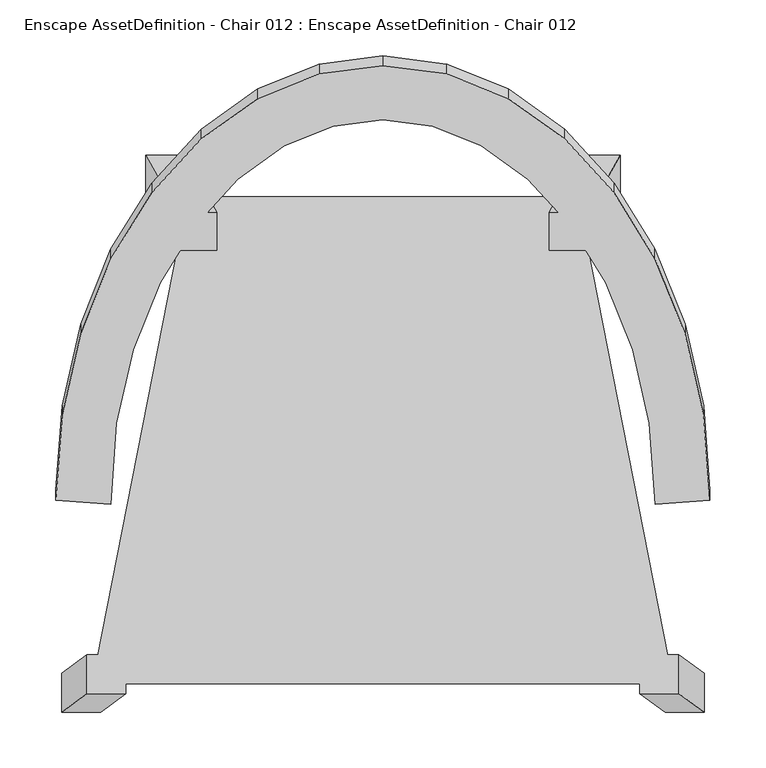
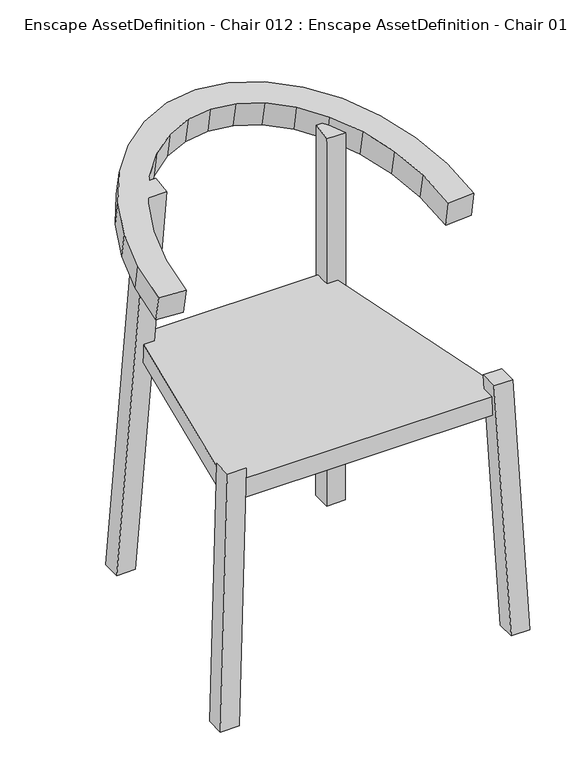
"""IFC4 building model written with IfcOpenShell, lengths in millimetres: geographic element geometry, Enscape AssetDefinition - Chair 012 : Enscape AssetDefinition - Chair 012."""

import ifcopenshell
import ifcopenshell.guid

model = None  # the IFC model being written
_history = None  # IfcOwnerHistory: only IFC2X3 demands one
_inside = {}  # id of a spatial element -> (the spatial element, [elements in it])
_under = {}  # id of a project, library or spatial element -> (it, [spatial elements below it])
_declared = {}  # id of a project -> (the project, [libraries it declares])
_typed = {}  # id of a type object -> (the type object, [elements of that type])
_made_of = {}  # id of a material, layer set ... -> (it, [elements and type objects made of it])


def new_model(schema):
    """Start an empty IFC model of exactly this schema.

    Asked for "IFC4X3", IfcOpenShell would pick the latest addendum, in which some entities
    have other attributes; the version numbers below select the first issue.
    IFC2X3 requires an IfcOwnerHistory on every rooted entity: one is made here for all.
    """
    global model, _history
    if schema == "IFC4X3":
        model = ifcopenshell.file(schema_version=(4, 3, 0, 0))
    else:
        model = ifcopenshell.file(schema=schema)
    _inside.clear()
    _under.clear()
    _declared.clear()
    _typed.clear()
    _made_of.clear()
    _history = None
    if model.schema == "IFC2X3":
        org = make("IfcOrganization", Name="unknown")
        user = make(
            "IfcPersonAndOrganization",
            ThePerson=make("IfcPerson", FamilyName="unknown"),
            TheOrganization=org,
        )
        app = make(
            "IfcApplication",
            ApplicationDeveloper=org,
            Version="unknown",
            ApplicationFullName="unknown",
            ApplicationIdentifier="unknown",
        )
        _history = make(
            "IfcOwnerHistory",
            OwningUser=user,
            OwningApplication=app,
            ChangeAction="ADDED",
            CreationDate=0,
        )
    return model


def make(cls, **values):
    """One entity of the class cls with the attributes given. An attribute that is None is left unset."""
    return model.create_entity(
        cls, **{name: value for name, value in values.items() if value is not None}
    )


def rooted(cls, **values):
    """An entity with a GlobalId (a new one), such as an element, a storey or a relation."""
    return make(cls, GlobalId=ifcopenshell.guid.new(), OwnerHistory=_history, **values)


def si_unit(unit_type, name, prefix=None):
    """IfcSIUnit, for example si_unit("LENGTHUNIT", "METRE", prefix="MILLI")."""
    return make("IfcSIUnit", UnitType=unit_type, Prefix=prefix, Name=name)


def assignment(units):
    """IfcUnitAssignment: the units of a project."""
    return None if units is None else make("IfcUnitAssignment", Units=units)


def point(xyz):
    """IfcCartesianPoint."""
    return None if xyz is None else make("IfcCartesianPoint", Coordinates=xyz)


def direction(xyz):
    """IfcDirection."""
    return None if xyz is None else make("IfcDirection", DirectionRatios=xyz)


def frame(location, z_axis=None, x_axis=None):
    """IfcAxis2Placement3D, a coordinate frame: its origin and axes. An axis left out is left unset."""
    return make(
        "IfcAxis2Placement3D",
        Location=point(location),
        Axis=direction(z_axis),
        RefDirection=direction(x_axis),
    )


def origin():
    """The frame at (0, 0, 0) with its axes left unset."""
    return frame((0.0, 0.0, 0.0))


def place(relative_to, where):
    """IfcLocalPlacement: puts the frame where relative to a parent placement (None: the world)."""
    return make(
        "IfcLocalPlacement", PlacementRelTo=relative_to, RelativePlacement=where
    )


def context(
    kind, dimensions, precision=None, world=None, true_north=None, identifier=None
):
    """IfcGeometricRepresentationContext, for example the 3D "Model" context."""
    return make(
        "IfcGeometricRepresentationContext",
        ContextIdentifier=identifier,
        ContextType=kind,
        CoordinateSpaceDimension=dimensions,
        Precision=precision,
        WorldCoordinateSystem=world,
        TrueNorth=true_north,
    )


def project(units=None, contexts=None):
    """IfcProject with its units and contexts."""
    return rooted(
        "IfcProject",
        Name="project",
        RepresentationContexts=contexts,
        UnitsInContext=assignment(units),
    )


def spatial(cls, under=None, at=None, **own):
    """A site, building, storey or space (cls), placed at a placement, below another one or the project."""
    s = rooted(cls, ObjectPlacement=at, **own)
    if under is not None:
        _under.setdefault(under.id(), (under, []))[1].append(s)
    return s


def point_list(points):
    """IfcCartesianPointList2D or 3D."""
    cls = (
        "IfcCartesianPointList2D" if len(points[0]) == 2 else "IfcCartesianPointList3D"
    )
    return make(cls, CoordList=points)


def triangles(points, corners, closed=None, point_numbers=None):
    """IfcTriangulatedFaceSet: each triangle names its three corners, points numbered from 1."""
    return make(
        "IfcTriangulatedFaceSet",
        Coordinates=point_list(points),
        Closed=closed,
        CoordIndex=corners,
        PnIndex=point_numbers,
    )


def shape(context_of_items, identifier, shape_type, items):
    """IfcShapeRepresentation: the items that make up one representation, for example the "Body"."""
    return make(
        "IfcShapeRepresentation",
        ContextOfItems=context_of_items,
        RepresentationIdentifier=identifier,
        RepresentationType=shape_type,
        Items=items,
    )


def source(mapping_origin, context_of_items, identifier, shape_type, items):
    """IfcRepresentationMap: a shape defined once, which mapped items show again and again."""
    return make(
        "IfcRepresentationMap",
        MappingOrigin=mapping_origin,
        MappedRepresentation=shape(context_of_items, identifier, shape_type, items),
    )


def transform(
    local_origin,
    x_axis=None,
    y_axis=None,
    z_axis=None,
    scale=None,
    scale2=None,
    scale3=None,
    uniform=True,
):
    """IfcCartesianTransformationOperator3D, or its non-uniform kind. x_axis, y_axis, z_axis: its Axis1, 2, 3."""
    if uniform:
        return make(
            "IfcCartesianTransformationOperator3D",
            Axis1=direction(x_axis),
            Axis2=direction(y_axis),
            LocalOrigin=point(local_origin),
            Scale=scale,
            Axis3=direction(z_axis),
        )
    return make(
        "IfcCartesianTransformationOperator3DnonUniform",
        Axis1=direction(x_axis),
        Axis2=direction(y_axis),
        LocalOrigin=point(local_origin),
        Scale=scale,
        Axis3=direction(z_axis),
        Scale2=scale2,
        Scale3=scale3,
    )


def mapped(mapping_source, mapping_target):
    """IfcMappedItem: shows the shape of a source again, moved by a transform."""
    return make(
        "IfcMappedItem", MappingSource=mapping_source, MappingTarget=mapping_target
    )


def made_of(thing, what):
    """Note that an element or type object is made of a material, layer set ...; save() writes the relation."""
    if what is not None:
        _made_of.setdefault(what.id(), (what, []))[1].append(thing)
    return thing


def element(
    cls,
    number,
    at=None,
    inside=None,
    cuts=None,
    type_object=None,
    material=None,
    context=None,
    identifier="Body",
    shape_type=None,
    held_by="IfcProductDefinitionShape",
    body=None,
    shapes=None,
    **own,
):
    """One element of the class cls, such as IfcWall. Its Tag is "e" and its number.

    at: its placement. inside: the storey or other place that contains it. cuts: it is an
    opening in that element (IfcRelVoidsElement). A single representation is given by context,
    identifier, shape_type and body (its items); several are given by shapes. held_by: the class
    of the entity that holds the representations. save() writes the other relations.
    """
    e = rooted(cls, Tag="e%d" % number, ObjectPlacement=at, **own)
    if body is not None:
        shapes = [shape(context, identifier, shape_type, body)]
    if shapes is not None:
        e.Representation = make(held_by, Representations=shapes)
    if inside is not None:
        _inside.setdefault(inside.id(), (inside, []))[1].append(e)
    if cuts is not None:
        rooted(
            "IfcRelVoidsElement", RelatingBuildingElement=cuts, RelatedOpeningElement=e
        )
    if type_object is not None:
        _typed.setdefault(type_object.id(), (type_object, []))[1].append(e)
    return made_of(e, material)


def aggregate(whole, parts):
    """IfcRelAggregates: a whole, such as a stair, and the parts it consists of."""
    return rooted("IfcRelAggregates", RelatingObject=whole, RelatedObjects=parts)


def save(model, path):
    """Write the relations noted so far, then the file.

    IfcRelAggregates (storeys below a building ...), IfcRelContainedInSpatialStructure (elements
    in a storey), IfcRelDefinesByType, IfcRelAssociatesMaterial and IfcRelDeclares: one each for
    every whole, place, type object, material and project.
    """
    for whole, parts in _under.values():
        aggregate(whole, parts)
    for where, things in _inside.values():
        rooted(
            "IfcRelContainedInSpatialStructure",
            RelatedElements=things,
            RelatingStructure=where,
        )
    for kind, things in _typed.values():
        rooted("IfcRelDefinesByType", RelatedObjects=things, RelatingType=kind)
    for what, things in _made_of.values():
        rooted("IfcRelAssociatesMaterial", RelatedObjects=things, RelatingMaterial=what)
    for by, libraries in _declared.values():
        rooted("IfcRelDeclares", RelatingContext=by, RelatedDefinitions=libraries)
    model.write(path)


def enscape_assetdefinition_chair_012_enscape_assetdefinition_f9da785b(model_context):
    return source(origin(), model_context, "Body", "Tessellation", [
        triangles([(0.0, 302.8165092, 753.0333235), (-44.5000363, 288.2343142, 800.8395624), (-44.5000363, 296.9678291, 751.9871664), (-57.1617862, 343.7414457, 760.3493013), (0.0, 351.2228931, 761.686647), (-88.2560864, 279.2638225, 748.82297), (-112.1268768, 321.584695, 756.3882059), (-162.7830145, 285.6041877, 749.9557497), (-88.2560864, 270.5302531, 797.6752207), (-129.9618075, 249.5578596, 743.5114483), (-207.1834475, 237.1824703, 741.2990833), (-167.7484818, 208.2646678, 736.1305035), (-243.6219937, 169.4468701, 779.6035767), (-243.6219937, 178.1804031, 730.7510353), (-162.7830145, 276.8706001, 798.8081457), (-112.1268768, 312.8511437, 805.2405293), (0.0, 294.0828853, 801.8858648), (44.4996003, 288.2343505, 800.8396351), (57.1613501, 335.0079672, 809.2016973), (-57.1617862, 335.0078945, 809.2016247), (0.0, 342.4893056, 810.5391157), (112.1264862, 312.8513254, 805.2406019), (88.2556958, 279.2640405, 748.82297), (44.4996003, 296.9679199, 751.9871664), (57.1613501, 343.7415184, 760.3493013), (112.1264862, 321.584913, 756.3882059), (88.2556958, 270.5304711, 797.675366), (162.7826875, 285.604442, 749.9558224), (207.183175, 228.4492643, 790.1516247), (162.7826875, 276.8709271, 798.8082184), (129.9614623, 249.5581502, 743.5115936), (207.183175, 237.1827973, 741.2992287), (129.9614623, 240.8246172, 792.363917), (167.7482092, 199.5315163, 784.9830448), (243.6217757, 169.4472879, 779.6035767), (167.7482092, 208.2650494, 736.1306488), (199.5945212, 147.8876482, 775.7496695), (270.6981026, 110.8659345, 718.7169588), (243.6217757, 178.1808755, 730.751108), (199.5945212, 156.6212176, 726.8972008), (223.7068939, 96.6058856, 716.1687132), (223.7068939, 87.8723162, 765.0210365), (270.6981026, 102.1323652, 767.5692822), (287.371667, 37.8250032, 705.6591076), (287.371667, 29.0914201, 754.5115763), (238.7281427, 22.0049159, 753.2449385), (293.0016831, -38.1350678, 692.0793406), (238.7281427, 30.7384899, 704.3923971), (243.9574383, -41.6573047, 691.4505999), (243.9574383, -50.3908877, 740.3030685), (293.0016831, -46.8686508, 740.9318819), (-207.1834475, 228.4489009, 790.1514793), (-167.7484818, 199.5311348, 784.9829721), (-129.9618075, 240.8242902, 792.363917), (-270.6982116, 102.1319473, 767.5692095), (-199.5947392, 147.8872304, 775.7495968), (-199.5947392, 156.6207816, 726.8971281), (-270.6982116, 110.8655439, 718.7168861), (-287.3717033, 29.091025, 754.5115036), (-223.7070029, 87.8718984, 765.0209639), (-238.728179, 22.0045231, 753.2447931), (-287.3717033, 37.8245967, 705.6590349), (-223.7070029, 96.605495, 716.1686405), (-243.9574383, -50.3912192, 740.3030685), (-293.0016831, -46.8689778, 740.9318092), (-238.728179, 30.7380947, 704.3923971), (-293.0016831, -38.1353948, 692.0793406), (-243.9574383, -41.6576362, 691.4505272), (-287.6734109, -236.627853, -4.38e-05), (-287.6734109, -201.7634658, -3.29e-05), (-252.8090419, -236.627853, -4.38e-05), (-265.1533103, -220.1131815, 489.4367314), (-230.2889594, -220.1131815, 489.4367314), (-252.8090419, -201.7634658, -3.29e-05), (-230.2889594, -185.2488125, 489.4367314), (-265.1533103, -185.2488125, 489.4367314), (252.8090419, -236.627853, -4.38e-05), (287.6734109, -201.7634658, -3.29e-05), (287.6734109, -236.627853, -4.38e-05), (265.1533103, -185.2488125, 489.4367314), (265.1533103, -220.1131815, 489.4367314), (230.2889594, -185.2488125, 489.4367314), (230.2889594, -220.1131815, 489.4367314), (252.8090419, -201.7634658, -3.29e-05), (174.6270045, 225.1360944, 461.8708268), (260.2853843, -211.2161229, 424.9157787), (-260.2853843, -211.2161229, 424.9157787), (174.6270045, 225.1360944, 424.9158514), (-174.6270045, 225.1360944, 461.8708268), (-174.6270045, 225.1360944, 424.9158514), (260.2853843, -211.216141, 461.8707178), (-260.2853843, -211.216141, 461.8707178), (212.6064086, 227.2863266, 3.29e-05), (212.6063905, 262.1506774, 4.38e-05), (183.9021832, 211.1917421, 768.2727276), (177.7420578, 262.1506774, 4.38e-05), (177.7420578, 227.2863266, 3.29e-05), (149.0378233, 211.1917058, 768.2727276), (183.9022014, 176.8353908, 762.3427116), (149.0378415, 176.8353363, 762.3427116), (-177.7421305, 262.1505321, 4.38e-05), (-177.7421123, 227.2861812, 3.29e-05), (-212.6064813, 227.2861812, 3.29e-05), (-183.9022559, 211.1916149, 768.2727276), (-212.6065176, 262.1505321, 4.38e-05), (-149.037896, 211.1916149, 768.2727276), (-183.9022559, 176.8352454, 762.3427116), (-149.0378869, 176.8352454, 762.3427116)], [[107, 102, 108], [106, 107, 108], [106, 104, 107], [107, 104, 105], [107, 103, 102], [107, 105, 103], [101, 106, 108], [104, 106, 101], [101, 102, 103], [101, 108, 102], [104, 101, 105], [101, 103, 105], [98, 100, 99], [98, 99, 95], [96, 100, 98], [95, 96, 98], [97, 93, 99], [96, 97, 100], [97, 99, 100], [95, 94, 96], [94, 95, 99], [94, 93, 97], [94, 99, 93], [94, 97, 96], [92, 90, 87], [91, 92, 87], [92, 89, 90], [91, 89, 92], [87, 90, 88], [89, 88, 90], [87, 88, 86], [91, 87, 86], [91, 85, 89], [89, 85, 88], [85, 91, 86], [85, 86, 88], [84, 82, 80], [83, 82, 84], [80, 82, 83], [80, 83, 81], [78, 80, 81], [78, 81, 79], [84, 80, 78], [81, 83, 77], [77, 84, 78], [83, 84, 77], [81, 77, 79], [77, 78, 79], [74, 75, 73], [73, 75, 76], [74, 76, 75], [73, 76, 72], [71, 73, 72], [74, 73, 71], [71, 72, 69], [70, 69, 72], [74, 70, 76], [70, 74, 71], [70, 72, 76], [70, 71, 69], [66, 68, 67], [68, 64, 65], [68, 65, 67], [68, 66, 61], [61, 65, 64], [68, 61, 64], [63, 61, 66], [57, 63, 58], [63, 66, 62], [66, 67, 62], [63, 62, 58], [65, 62, 67], [61, 59, 65], [65, 59, 62], [63, 60, 61], [60, 59, 61], [60, 55, 59], [62, 59, 55], [62, 55, 58], [57, 58, 14], [55, 14, 58], [12, 57, 14], [63, 57, 56], [56, 55, 60], [63, 56, 60], [12, 56, 57], [56, 13, 55], [55, 13, 14], [12, 53, 56], [53, 13, 56], [12, 54, 53], [53, 52, 13], [54, 52, 53], [49, 47, 51], [49, 51, 50], [46, 50, 51], [49, 50, 46], [48, 47, 49], [49, 46, 48], [48, 44, 47], [45, 51, 47], [46, 51, 45], [45, 47, 44], [42, 46, 45], [41, 48, 46], [41, 44, 48], [41, 46, 42], [41, 38, 44], [43, 45, 44], [42, 45, 43], [43, 44, 38], [37, 42, 43], [41, 42, 37], [40, 38, 41], [41, 37, 40], [40, 39, 38], [35, 43, 38], [37, 43, 35], [35, 38, 39], [34, 37, 35], [36, 40, 37], [36, 39, 40], [36, 37, 34], [36, 32, 39], [32, 35, 39], [32, 29, 35], [34, 35, 29], [33, 34, 29], [36, 34, 33], [31, 32, 36], [36, 33, 31], [31, 28, 32], [30, 29, 32], [33, 29, 30], [30, 32, 28], [27, 33, 30], [23, 31, 33], [23, 28, 31], [23, 33, 27], [23, 26, 28], [24, 26, 23], [24, 25, 26], [22, 30, 28], [27, 30, 22], [25, 22, 26], [22, 28, 26], [18, 27, 22], [23, 27, 18], [23, 18, 24], [25, 19, 22], [18, 22, 19], [21, 19, 25], [4, 21, 5], [21, 25, 5], [16, 20, 4], [4, 20, 21], [17, 18, 19], [17, 21, 20], [17, 19, 21], [2, 20, 16], [17, 20, 2], [2, 16, 9], [9, 16, 15], [54, 15, 52], [9, 15, 54], [13, 52, 11], [11, 52, 15], [12, 14, 11], [13, 11, 14], [10, 12, 11], [12, 10, 54], [8, 15, 16], [10, 11, 8], [11, 15, 8], [6, 10, 8], [6, 9, 54], [6, 2, 9], [6, 54, 10], [6, 8, 7], [16, 4, 7], [8, 16, 7], [3, 6, 7], [6, 3, 2], [3, 7, 4], [1, 5, 25], [1, 3, 4], [1, 17, 2], [1, 24, 18], [1, 25, 24], [1, 4, 5], [1, 2, 3], [1, 18, 17]]),
    ])


if __name__ == "__main__":
    model = new_model("IFC4")
    model_context = context("Model", 3, world=origin())
    ifc_project = project(units=[si_unit("LENGTHUNIT", "METRE", prefix="MILLI")], contexts=[model_context])
    site = spatial("IfcSite", under=ifc_project)
    building = spatial("IfcBuilding", under=site)
    placement = place(None, origin())
    enscape_assetdefinition_chair_012_enscape_assetdefinition_shape = enscape_assetdefinition_chair_012_enscape_assetdefinition_f9da785b(model_context)
    element("IfcGeographicElement", 1, ObjectType="Enscape AssetDefinition - Chair 012 : Enscape AssetDefinition - Chair 012", at=placement, inside=building, context=model_context, shape_type="MappedRepresentation", body=[
        mapped(enscape_assetdefinition_chair_012_enscape_assetdefinition_shape, transform((0.0, 0.0, 0.0), x_axis=(1.0, 0.0, 0.0), y_axis=(0.0, 1.0, 0.0), z_axis=(0.0, 0.0, 1.0))),
    ])
    save(model, "model.ifc")
